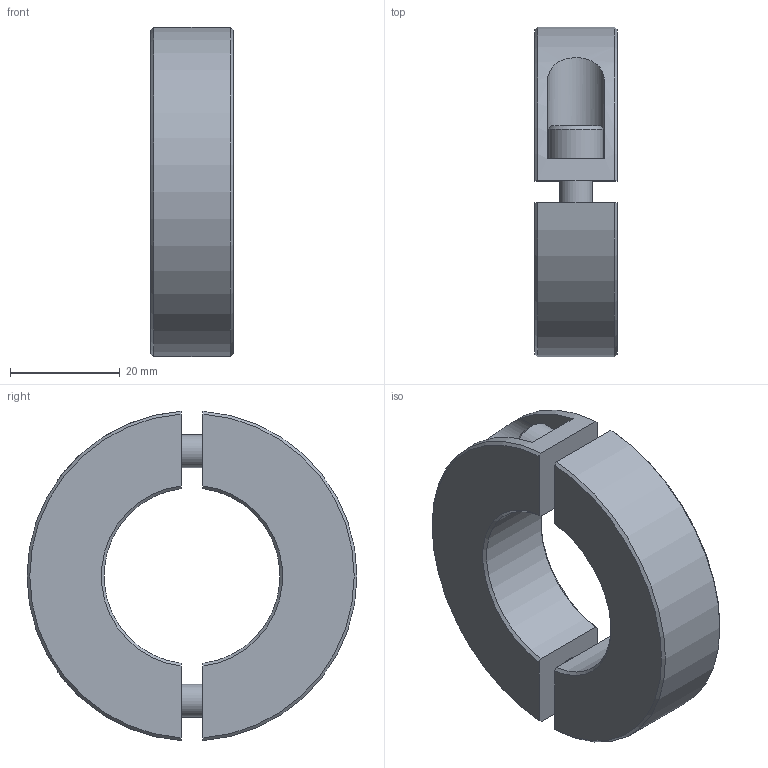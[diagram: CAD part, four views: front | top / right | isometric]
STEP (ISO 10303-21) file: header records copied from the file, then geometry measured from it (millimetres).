
FILE_DESCRIPTION(/* description */ ('STEP AP214'),/* implementation_level */ '2;1');
FILE_NAME(/* name */ 'Split Shaft Collar_ Aluminum GN 707.2-60-B32-AL',/* time_stamp */ '2024-06-10T15:27:01+02:00',/* author */ ('License CC BY-ND 4.0'),/* organization */ ('CADENAS'),/* preprocessor_version */ 'ST-DEVELOPER v19.3',/* originating_system */ 'PARTsolutions',/* authorisation */ ' ');
FILE_SCHEMA (('MODEL_BASED_INTEGRATED_MANUFACTURING_SCHEMA','AP242_MANAGED_MODEL_BASED_3D_ENGINEERING_MIM_LF { 1 0 10303 442 3 1 4 }','AUTOMOTIVE_DESIGN {1 0 10303 214 3 1 1}'));
Length unit declared in the file: millimetre
Products named in the file (1): Split Shaft Collar, Aluminum GN 707.2-60-B32-AL
Bounding box: 15 x 60 x 59.87 mm (x, y, z)
Volume: 26808.8 mm3; surface area: 10235.3 mm2
Topology: 1 solids, 3 shells, 74 faces, 172 edges, 110 vertices
Faces by surface type: plane 44, cone 16, cylinder 14
Full cylindrical faces by diameter (mm): 4.917 x2, 6 x2, 6.3 x2, 10 x2
Entity records: 2518 total; most frequent: CARTESIAN_POINT 393, DIRECTION 332, ORIENTED_EDGE 292, EDGE_CURVE 146, AXIS2_PLACEMENT_3D 129, VERTEX_POINT 104, FACE_BOUND 102, EDGE_LOOP 98
